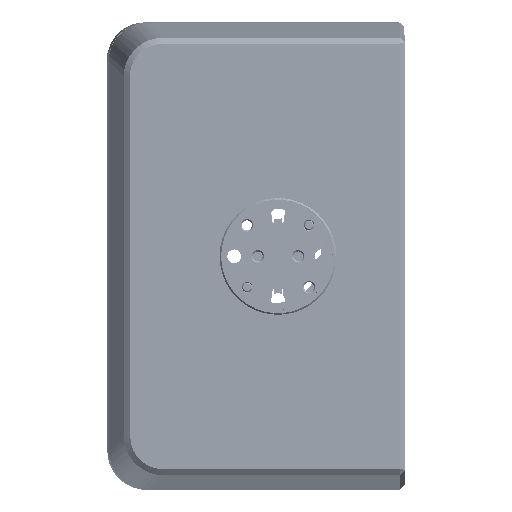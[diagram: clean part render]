
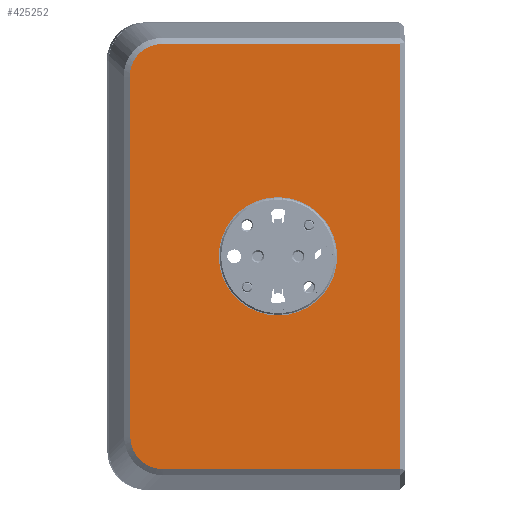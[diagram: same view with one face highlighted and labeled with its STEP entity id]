
A CAD part, left-side view. The second image highlights one B-rep face of the part: STEP entity #425252.
In plain terms, the highlighted planar face has unit normal (-1, -0.002, -0.001).
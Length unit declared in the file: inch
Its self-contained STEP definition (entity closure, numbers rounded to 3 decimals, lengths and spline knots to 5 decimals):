
#682 = CARTESIAN_POINT ( 'NONE',  ( -1.59489, -6.87131, 0.04683 ) ) ;
#1849 = EDGE_LOOP ( 'NONE', ( #218493, #421629 ) ) ;
#5157 = CARTESIAN_POINT ( 'NONE',  ( -1.59378, -6.70755, -2.60331 ) ) ;
#7236 = CARTESIAN_POINT ( 'NONE',  ( -1.59513, -6.66262, -0.13482 ) ) ;
#7407 = LINE ( 'NONE', #143362, #170249 ) ;
#13356 = CARTESIAN_POINT ( 'NONE',  ( -1.59283, -7.61473, -1.69728 ) ) ;
#15246 = FACE_BOUND ( 'NONE', #1849, .T. ) ;
#17432 = AXIS2_PLACEMENT_3D ( 'NONE', #122575, #151678, #251862 ) ;
#19669 = CARTESIAN_POINT ( 'NONE',  ( -1.59324, -7.47924, -1.31746 ) ) ;
#28769 = EDGE_CURVE ( 'NONE', #174670, #108429, #7407, .T. ) ;
#32934 = AXIS2_PLACEMENT_3D ( 'NONE', #237259, #312816, #377388 ) ;
#36120 = CARTESIAN_POINT ( 'NONE',  ( -1.59109, -8.401, -2.68134 ) ) ;
#38623 = CARTESIAN_POINT ( 'NONE',  ( -1.59381, -6.69203, -2.5801 ) ) ;
#46681 = DIRECTION ( 'NONE',  ( 1., 0.002, 0.001 ) ) ;
#46726 = EDGE_CURVE ( 'NONE', #312558, #174670, #430899, .T. ) ;
#46821 = VECTOR ( 'NONE', #56208, 39.37008 ) ;
#48880 = PLANE ( 'NONE',  #261730 ) ;
#56208 = DIRECTION ( 'NONE',  ( 0.002, -1., 0.001 ) ) ;
#58406 = CARTESIAN_POINT ( 'NONE',  ( -1.59253, -7.48101, -2.68254 ) ) ;
#62787 = LINE ( 'NONE', #58406, #46821 ) ;
#63711 = ORIENTED_EDGE ( 'NONE', *, *, #28769, .T. ) ;
#68194 = LINE ( 'NONE', #337485, #114218 ) ;
#72116 = CARTESIAN_POINT ( 'NONE',  ( -1.5937, -6.7461, -2.64177 ) ) ;
#82992 = ORIENTED_EDGE ( 'NONE', *, *, #327585, .T. ) ;
#86608 = FACE_OUTER_BOUND ( 'NONE', #93879, .T. ) ;
#93879 = EDGE_LOOP ( 'NONE', ( #388124, #166227, #82992, #386844, #143841, #63711 ) ) ;
#100274 = VECTOR ( 'NONE', #396310, 39.37008 ) ;
#103200 = CARTESIAN_POINT ( 'NONE',  ( -1.59498, -6.81633, 0.04132 ) ) ;
#103251 = CARTESIAN_POINT ( 'NONE',  ( -1.59347, -6.87485, -2.68332 ) ) ;
#108429 = VERTEX_POINT ( 'NONE', #370309 ) ;
#114218 = VECTOR ( 'NONE', #272890, 39.37008 ) ;
#122575 = CARTESIAN_POINT ( 'NONE',  ( -1.59303, -7.61424, -1.31728 ) ) ;
#126947 = CARTESIAN_POINT ( 'NONE',  ( -1.59395, -7.47747, 0.04762 ) ) ;
#138877 = CARTESIAN_POINT ( 'NONE',  ( -1.59391, -6.66566, -2.47467 ) ) ;
#143362 = CARTESIAN_POINT ( 'NONE',  ( -1.59451, -6.66416, -1.31852 ) ) ;
#143841 = ORIENTED_EDGE ( 'NONE', *, *, #46726, .T. ) ;
#150501 = VERTEX_POINT ( 'NONE', #302059 ) ;
#151218 = DIRECTION ( 'NONE',  ( 0.001, -0.001, -1. ) ) ;
#151678 = DIRECTION ( 'NONE',  ( -1., -0.002, -0.001 ) ) ;
#152075 = B_SPLINE_CURVE_WITH_KNOTS ( 'NONE', 3,
 ( #138877, #374873, #274658, #38623, #5157, #72116, #207842, #310250, #339256, #103251 ),
 .UNSPECIFIED., .F., .F.,
 ( 4, 2, 2, 2, 4 ),
 ( 0., 0.25, 0.5, 0.75, 1. ),
 .UNSPECIFIED. ) ;
#156873 = EDGE_CURVE ( 'NONE', #435604, #194647, #273382, .T. ) ;
#158038 = CARTESIAN_POINT ( 'NONE',  ( -1.59489, -6.87131, 0.04683 ) ) ;
#160594 = EDGE_CURVE ( 'NONE', #150501, #193113, #62787, .T. ) ;
#166227 = ORIENTED_EDGE ( 'NONE', *, *, #160594, .T. ) ;
#167362 = VERTEX_POINT ( 'NONE', #253664 ) ;
#170249 = VECTOR ( 'NONE', #381493, 39.37008 ) ;
#174505 = CARTESIAN_POINT ( 'NONE',  ( -1.59507, -6.74267, 0.00494 ) ) ;
#174670 = VERTEX_POINT ( 'NONE', #391800 ) ;
#175825 = EDGE_CURVE ( 'NONE', #194647, #435604, #360006, .T. ) ;
#193113 = VERTEX_POINT ( 'NONE', #36120 ) ;
#194647 = VERTEX_POINT ( 'NONE', #13356 ) ;
#207842 = CARTESIAN_POINT ( 'NONE',  ( -1.59365, -6.76936, -2.65723 ) ) ;
#218493 = ORIENTED_EDGE ( 'NONE', *, *, #156873, .F. ) ;
#237259 = CARTESIAN_POINT ( 'NONE',  ( -1.59303, -7.61424, -1.31728 ) ) ;
#238540 = EDGE_CURVE ( 'NONE', #108429, #150501, #152075, .T. ) ;
#241260 = CARTESIAN_POINT ( 'NONE',  ( -1.59513, -6.68876, -0.05687 ) ) ;
#251862 = DIRECTION ( 'NONE',  ( -0.001, 0.001, 1. ) ) ;
#253664 = CARTESIAN_POINT ( 'NONE',  ( -1.59251, -8.39746, 0.04881 ) ) ;
#261730 = AXIS2_PLACEMENT_3D ( 'NONE', #19669, #46681, #151218 ) ;
#272890 = DIRECTION ( 'NONE',  ( -0.001, 0.001, 1. ) ) ;
#273382 = CIRCLE ( 'NONE', #17432, 0.38 ) ;
#274602 = CARTESIAN_POINT ( 'NONE',  ( -1.59505, -6.76588, 0.02046 ) ) ;
#274658 = CARTESIAN_POINT ( 'NONE',  ( -1.59387, -6.67116, -2.52965 ) ) ;
#302059 = CARTESIAN_POINT ( 'NONE',  ( -1.59347, -6.87485, -2.68332 ) ) ;
#303608 = CARTESIAN_POINT ( 'NONE',  ( -1.59511, -6.66266, -0.16236 ) ) ;
#310250 = CARTESIAN_POINT ( 'NONE',  ( -1.59356, -6.81985, -2.67797 ) ) ;
#312558 = VERTEX_POINT ( 'NONE', #158038 ) ;
#312816 = DIRECTION ( 'NONE',  ( -1., -0.002, -0.001 ) ) ;
#327585 = EDGE_CURVE ( 'NONE', #193113, #167362, #68194, .T. ) ;
#337485 = CARTESIAN_POINT ( 'NONE',  ( -1.5918, -8.39923, -1.31627 ) ) ;
#339256 = CARTESIAN_POINT ( 'NONE',  ( -1.59352, -6.84731, -2.68336 ) ) ;
#345746 = CARTESIAN_POINT ( 'NONE',  ( -1.59511, -6.70421, -0.03361 ) ) ;
#360006 = CIRCLE ( 'NONE', #32934, 0.38 ) ;
#370309 = CARTESIAN_POINT ( 'NONE',  ( -1.59391, -6.66566, -2.47467 ) ) ;
#374873 = CARTESIAN_POINT ( 'NONE',  ( -1.59389, -6.66569, -2.50216 ) ) ;
#376982 = CARTESIAN_POINT ( 'NONE',  ( -1.59513, -6.66802, -0.10736 ) ) ;
#377388 = DIRECTION ( 'NONE',  ( -0.001, 0.001, 1. ) ) ;
#381493 = DIRECTION ( 'NONE',  ( 0.001, -0.001, -1. ) ) ;
#386844 = ORIENTED_EDGE ( 'NONE', *, *, #428660, .T. ) ;
#388124 = ORIENTED_EDGE ( 'NONE', *, *, #238540, .T. ) ;
#391800 = CARTESIAN_POINT ( 'NONE',  ( -1.59511, -6.66266, -0.16236 ) ) ;
#396310 = DIRECTION ( 'NONE',  ( -0.002, 1., -0.001 ) ) ;
#408060 = CARTESIAN_POINT ( 'NONE',  ( -1.59494, -6.84382, 0.0468 ) ) ;
#414334 = CARTESIAN_POINT ( 'NONE',  ( -1.59322, -7.61374, -0.93729 ) ) ;
#421629 = ORIENTED_EDGE ( 'NONE', *, *, #175825, .F. ) ;
#425252 = ADVANCED_FACE ( 'NONE', ( #15246, #86608 ), #48880, .F. ) ;
#428660 = EDGE_CURVE ( 'NONE', #167362, #312558, #431853, .T. ) ;
#430899 = B_SPLINE_CURVE_WITH_KNOTS ( 'NONE', 3,
 ( #682, #408060, #103200, #274602, #174505, #345746, #241260, #376982, #7236, #303608 ),
 .UNSPECIFIED., .F., .F.,
 ( 4, 2, 2, 2, 4 ),
 ( 0., 0.25, 0.5, 0.75, 1. ),
 .UNSPECIFIED. ) ;
#431853 = LINE ( 'NONE', #126947, #100274 ) ;
#435604 = VERTEX_POINT ( 'NONE', #414334 ) ;
